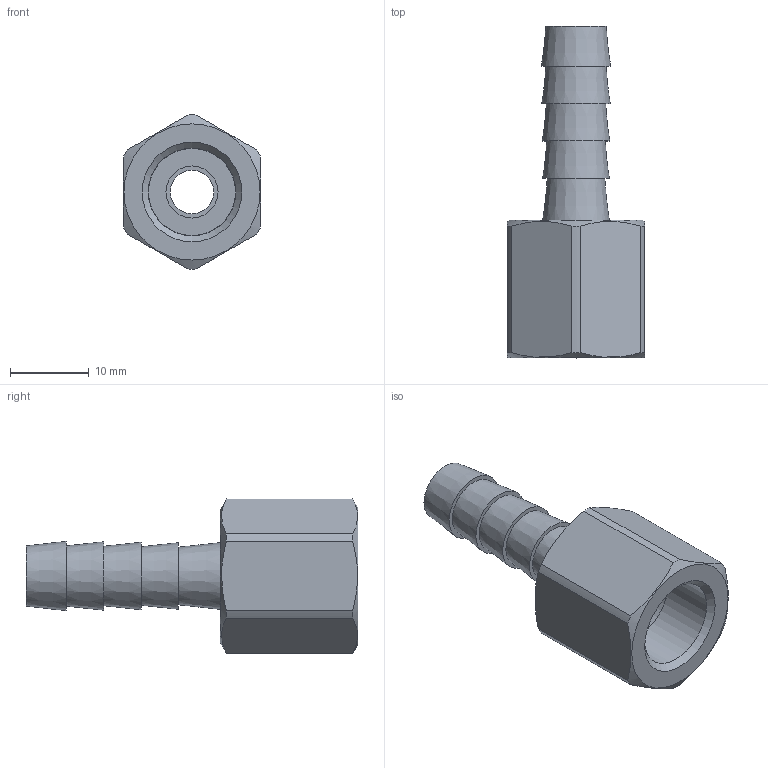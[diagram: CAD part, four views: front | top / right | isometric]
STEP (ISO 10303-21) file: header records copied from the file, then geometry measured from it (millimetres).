
FILE_DESCRIPTION(/* description */ (''),/* implementation_level */ '2;1');
FILE_NAME(/* name */ 'C:/Users/drich/Desktop/FB15-4 v2.step',/* time_stamp */ '2020-02-09T10:48:11-06:00',/* author */ (''),/* organization */ (''),/* preprocessor_version */ 'ST-DEVELOPER v18',/* originating_system */ 'Autodesk Translation Framework v8.12.0.6',/* authorisation */ '');
FILE_SCHEMA (('AUTOMOTIVE_DESIGN { 1 0 10303 214 3 1 1 }'));
Length unit declared in the file: inch
Products named in the file (2): FB15-4; 15 BARB ONLY
Assembly tree (1 placements, depth 2):
  FB15-4
    15 BARB ONLY
Bounding box: 17.45 x 42.09 x 19.56 mm (x, y, z)
Volume: 3736.4 mm3; surface area: 3175.7 mm2
Topology: 2 solids, 2 shells, 35 faces, 92 edges, 66 vertices
Faces by surface type: plane 15, cone 10, cylinder 10
Full cylindrical faces by diameter (mm): 5.537 x1, 6.604 x1, 11.049 x1, 11.1 x1
Entity records: 1191 total; most frequent: CARTESIAN_POINT 220, DIRECTION 210, ORIENTED_EDGE 184, EDGE_CURVE 92, AXIS2_PLACEMENT_3D 92, VERTEX_POINT 66, CIRCLE 54, EDGE_LOOP 44
